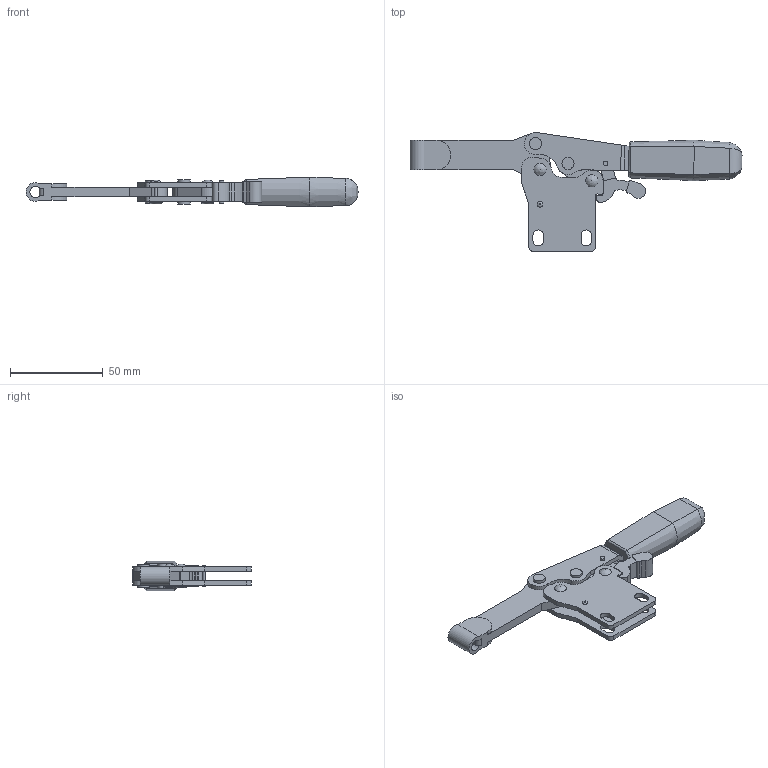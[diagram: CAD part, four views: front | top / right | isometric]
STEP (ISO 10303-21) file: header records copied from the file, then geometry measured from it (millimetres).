
FILE_DESCRIPTION( ( 'STEP AP203' ), '1' );
FILE_NAME( 'C:/Temp/Ganter_Step_05_03_2020/data/2_4/gn_820_4/gn_820_4_ni/Stainless Steel-Toggle clamp GN 820.4-130-PL-NI (closed).stp', '2020-03-13T05:53:52', ( 'License CC BY-ND 4.0' ), ( 'CADENAS' ), ' ', 'PARTsolutions', ' ' );
FILE_SCHEMA( ( 'CONFIG_CONTROL_DESIGN' ) );
Length unit declared in the file: millimetre
Products named in the file (6): Stainless Steel-Toggle clamp GN 820.4-130-PL-NI (closed); _Toggle clamp GN 820.4-130-PL-NI-1; _Toggle clamp GN 820.4-130-PL-NI (1)-2; _Toggle clamp GN 820.4-130-PL-NI (1)-3; _Toggle clamp GN 820.4-130-PL-NI (1)-4; _Toggle clamp GN 820.4-130-PL-NI-5
Assembly tree (5 placements, depth 2):
  Stainless Steel-Toggle clamp GN 820.4-130-PL-NI (closed)
    _Toggle clamp GN 820.4-130-PL-NI-1
    _Toggle clamp GN 820.4-130-PL-NI (1)-2
    _Toggle clamp GN 820.4-130-PL-NI (1)-3
    _Toggle clamp GN 820.4-130-PL-NI (1)-4
    _Toggle clamp GN 820.4-130-PL-NI-5
Bounding box: 179.15 x 64.18 x 16 mm (x, y, z)
Volume: 40316.1 mm3; surface area: 22687.6 mm2
Topology: 5 solids, 5 shells, 201 faces, 537 edges, 359 vertices
Faces by surface type: plane 101, cylinder 86, bspline 6, torus 4, cone 4
Full cylindrical faces by diameter (mm): 1.4 x1, 2.5 x5, 4.4 x4, 6.5 x10
Entity records: 6603 total; most frequent: CARTESIAN_POINT 1407, DIRECTION 1058, ORIENTED_EDGE 992, EDGE_CURVE 496, AXIS2_PLACEMENT_3D 389, VERTEX_POINT 346, LINE 280, VECTOR 280
